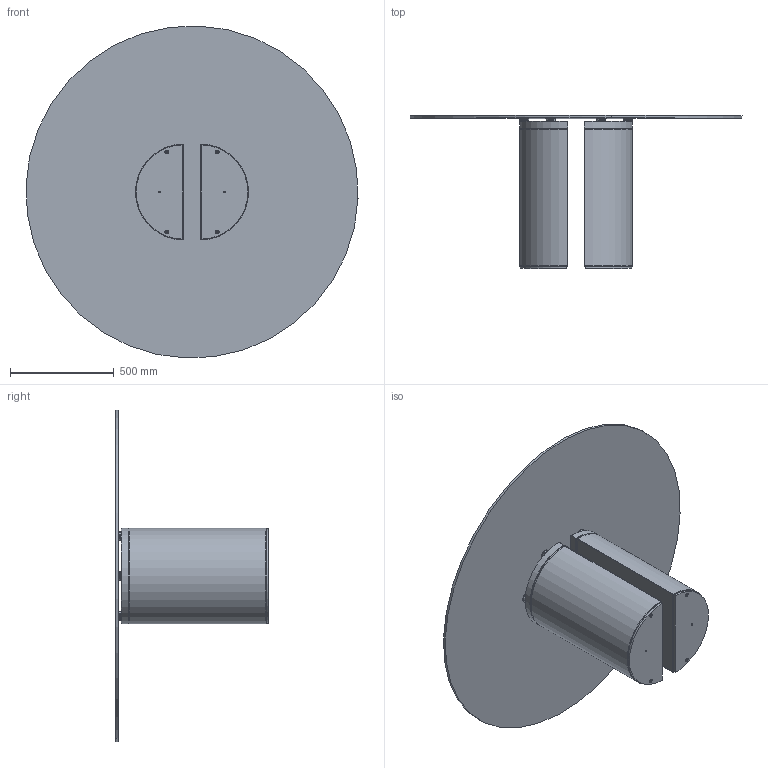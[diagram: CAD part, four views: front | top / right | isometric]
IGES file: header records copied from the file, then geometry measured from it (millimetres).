
Start section: SolidWorks IGES file using analytic representation for surfaces
Global section: file name: Y:\eforma\TECNICO\SOLIDWORKS\E-FORMA\1-TAVOLI\DORA\02 parts\160.IGS; native system: SolidWorks 2022; preprocessor: SolidWorks 2022; author: eforma.tech; date: 240806.162806; units: millimetre
Bounding box: 1598.81 x 735.5 x 1598.81 mm (x, y, z)
Volume: 35634590.8 mm3; surface area: 8436126.2 mm2
Topology: 37 solids, 37 shells, 734 faces, 1634 edges, 982 vertices
Faces by surface type: revolution 436, plane 286, bspline 12
